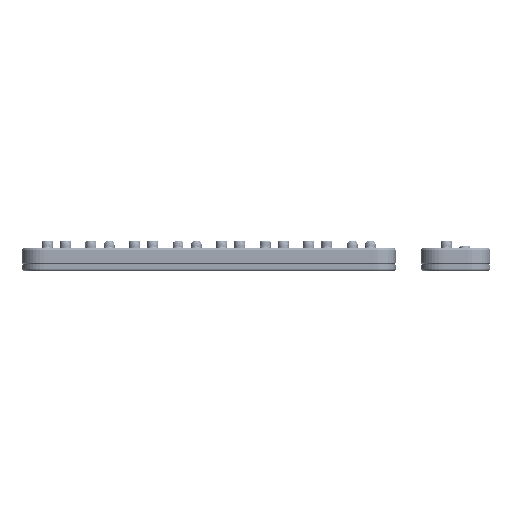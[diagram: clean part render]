
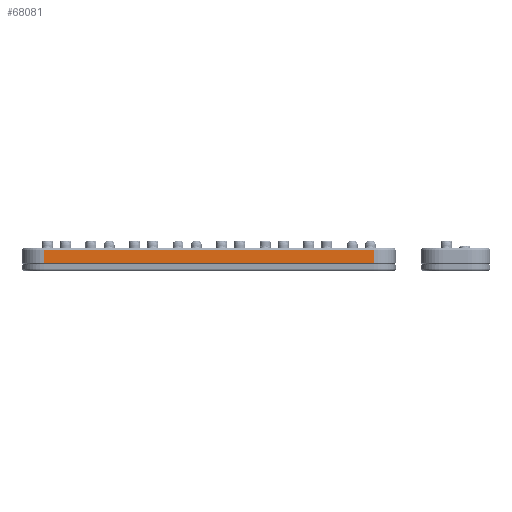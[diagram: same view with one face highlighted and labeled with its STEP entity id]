
A CAD part, front view. The second image highlights one B-rep face of the part: STEP entity #68081.
In plain terms, the highlighted planar face has unit normal (0, -1, 0).
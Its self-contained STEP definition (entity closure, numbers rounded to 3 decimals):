
#3044=PLANE('',#73139);
#4243=FACE_OUTER_BOUND('',#8784,.T.);
#8784=EDGE_LOOP('',(#46098,#46099,#46100,#46101));
#20007=LINE('',#107776,#23725);
#20037=LINE('',#107959,#23755);
#20042=LINE('',#107971,#23760);
#20043=LINE('',#107972,#23761);
#23725=VECTOR('',#83967,10.);
#23755=VECTOR('',#84157,10.);
#23760=VECTOR('',#84170,10.);
#23761=VECTOR('',#84171,10.);
#27575=VERTEX_POINT('',#107743);
#27582=VERTEX_POINT('',#107769);
#27656=VERTEX_POINT('',#107958);
#27659=VERTEX_POINT('',#107970);
#34346=EDGE_CURVE('',#27575,#27582,#20007,.T.);
#34436=EDGE_CURVE('',#27575,#27656,#20037,.T.);
#34442=EDGE_CURVE('',#27659,#27582,#20042,.T.);
#34443=EDGE_CURVE('',#27656,#27659,#20043,.T.);
#46098=ORIENTED_EDGE('',*,*,#34346,.T.);
#46099=ORIENTED_EDGE('',*,*,#34442,.F.);
#46100=ORIENTED_EDGE('',*,*,#34443,.F.);
#46101=ORIENTED_EDGE('',*,*,#34436,.F.);
#68081=ADVANCED_FACE('',(#4243),#3044,.T.);
#73139=AXIS2_PLACEMENT_3D('',#107969,#84168,#84169);
#83967=DIRECTION('',(1.,0.,0.));
#84157=DIRECTION('',(0.,0.,1.));
#84168=DIRECTION('center_axis',(0.,-1.,0.));
#84169=DIRECTION('ref_axis',(1.,0.,0.));
#84170=DIRECTION('',(0.,0.,-1.));
#84171=DIRECTION('',(1.,0.,0.));
#107743=CARTESIAN_POINT('',(-92.,-54.,-8.4));
#107769=CARTESIAN_POINT('',(90.,-54.,-8.4));
#107776=CARTESIAN_POINT('',(-46.5,-54.,-8.4));
#107958=CARTESIAN_POINT('',(-92.,-54.,-1.414));
#107959=CARTESIAN_POINT('',(-92.,-54.,-9.));
#107969=CARTESIAN_POINT('Origin',(-92.,-54.,-9.));
#107970=CARTESIAN_POINT('',(90.,-54.,-1.414));
#107971=CARTESIAN_POINT('',(90.,-54.,-9.));
#107972=CARTESIAN_POINT('',(-90.25,-54.,-1.414));
